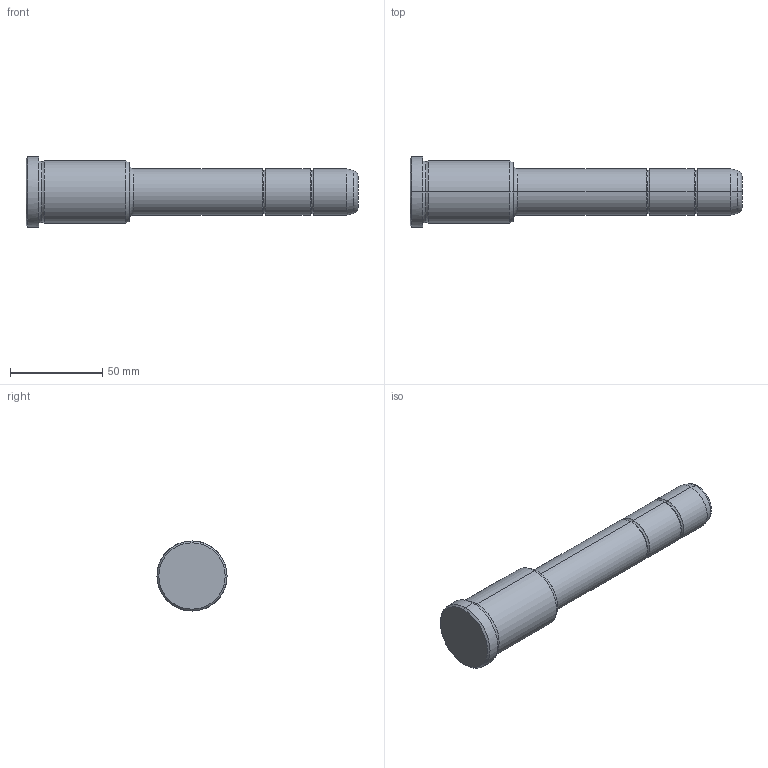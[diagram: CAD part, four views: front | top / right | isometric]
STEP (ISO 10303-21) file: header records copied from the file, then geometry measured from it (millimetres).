
FILE_DESCRIPTION(('CATIA V5 STEP Exchange'),'2;1');
FILE_NAME('C:\Users\Utente\Desktop\IO LAVORO\3D X SITO CF\X SITO\PLASTICA\351\351-25X56X180.stp','2021-09-07T10:16:42+00:00',('none'),('none'),'CATIA Version 5 Release 20 GA (IN-10)','CATIA V5 STEP AP203','none');
FILE_SCHEMA(('CONFIG_CONTROL_DESIGN'));
Length unit declared in the file: millimetre
Products named in the file (1): 351-25X56X180
Bounding box: 180 x 38 x 38 mm (x, y, z)
Volume: 112506.2 mm3; surface area: 17766.7 mm2
Topology: 1 solids, 1 shells, 36 faces, 102 edges, 70 vertices
Faces by surface type: torus 16, cylinder 10, cone 6, plane 4
Entity records: 1292 total; most frequent: CARTESIAN_POINT 321, ORIENTED_EDGE 204, DIRECTION 166, AXIS2_PLACEMENT_3D 115, EDGE_CURVE 102, CIRCLE 78, VERTEX_POINT 70, EDGE_LOOP 38
